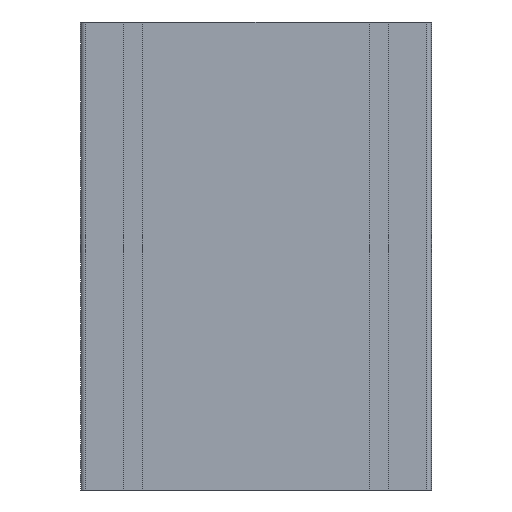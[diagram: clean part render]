
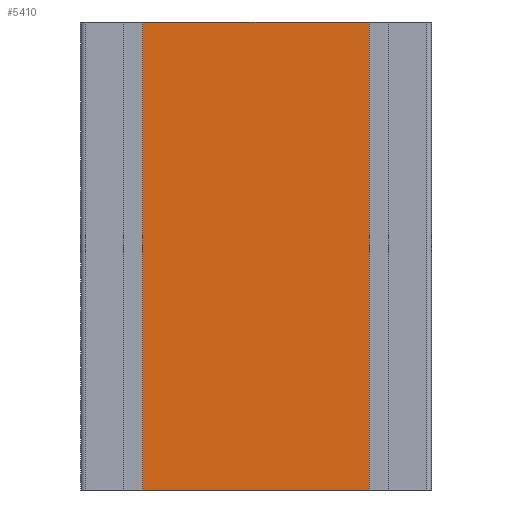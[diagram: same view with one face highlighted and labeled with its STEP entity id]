
A CAD part, front view. The second image highlights one B-rep face of the part: STEP entity #5410.
In plain terms, the highlighted planar face has unit normal (0, -1, 0).
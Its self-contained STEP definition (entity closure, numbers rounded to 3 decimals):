
#45 = VERTEX_POINT ( 'NONE', #4179 ) ;
#156 = VECTOR ( 'NONE', #8692, 1000. ) ;
#179 = EDGE_CURVE ( 'NONE', #5706, #8148, #7563, .T. ) ;
#277 = DIRECTION ( 'NONE',  ( 0., 0., -1. ) ) ;
#282 = CARTESIAN_POINT ( 'NONE',  ( -47.711, -89.648, 200. ) ) ;
#578 = EDGE_CURVE ( 'NONE', #4539, #5706, #8196, .T. ) ;
#1073 = DIRECTION ( 'NONE',  ( 1., 0., 0. ) ) ;
#1146 = CARTESIAN_POINT ( 'NONE',  ( -47.711, -89.648, 0. ) ) ;
#1235 = ORIENTED_EDGE ( 'NONE', *, *, #5623, .F. ) ;
#1267 = EDGE_CURVE ( 'NONE', #4539, #45, #1782, .T. ) ;
#1311 = CARTESIAN_POINT ( 'NONE',  ( 49.089, -89.648, 0. ) ) ;
#1339 = ORIENTED_EDGE ( 'NONE', *, *, #179, .T. ) ;
#1510 = CARTESIAN_POINT ( 'NONE',  ( -47.711, -89.648, 200. ) ) ;
#1782 = LINE ( 'NONE', #5523, #5324 ) ;
#1848 = CARTESIAN_POINT ( 'NONE',  ( -47.711, -89.648, 0. ) ) ;
#1920 = VECTOR ( 'NONE', #1073, 1000. ) ;
#2262 = DIRECTION ( 'NONE',  ( 0., 1., 0. ) ) ;
#2790 = ORIENTED_EDGE ( 'NONE', *, *, #578, .T. ) ;
#2918 = ORIENTED_EDGE ( 'NONE', *, *, #1267, .F. ) ;
#3032 = DIRECTION ( 'NONE',  ( 0., 0., 1. ) ) ;
#4179 = CARTESIAN_POINT ( 'NONE',  ( 49.089, -89.648, 200. ) ) ;
#4539 = VERTEX_POINT ( 'NONE', #282 ) ;
#4773 = DIRECTION ( 'NONE',  ( 1., 0., 0. ) ) ;
#5265 = LINE ( 'NONE', #9043, #7822 ) ;
#5324 = VECTOR ( 'NONE', #4773, 1000. ) ;
#5410 = ADVANCED_FACE ( 'NONE', ( #7263 ), #6684, .F. ) ;
#5523 = CARTESIAN_POINT ( 'NONE',  ( -47.711, -89.648, 200. ) ) ;
#5623 = EDGE_CURVE ( 'NONE', #45, #8148, #5265, .T. ) ;
#5706 = VERTEX_POINT ( 'NONE', #1848 ) ;
#6684 = PLANE ( 'NONE',  #7077 ) ;
#6727 = EDGE_LOOP ( 'NONE', ( #1339, #1235, #2918, #2790 ) ) ;
#7077 = AXIS2_PLACEMENT_3D ( 'NONE', #1510, #2262, #3032 ) ;
#7263 = FACE_OUTER_BOUND ( 'NONE', #6727, .T. ) ;
#7510 = CARTESIAN_POINT ( 'NONE',  ( -47.711, -89.648, 200. ) ) ;
#7563 = LINE ( 'NONE', #1146, #1920 ) ;
#7822 = VECTOR ( 'NONE', #277, 1000. ) ;
#8148 = VERTEX_POINT ( 'NONE', #1311 ) ;
#8196 = LINE ( 'NONE', #7510, #156 ) ;
#8692 = DIRECTION ( 'NONE',  ( 0., 0., -1. ) ) ;
#9043 = CARTESIAN_POINT ( 'NONE',  ( 49.089, -89.648, 200. ) ) ;
